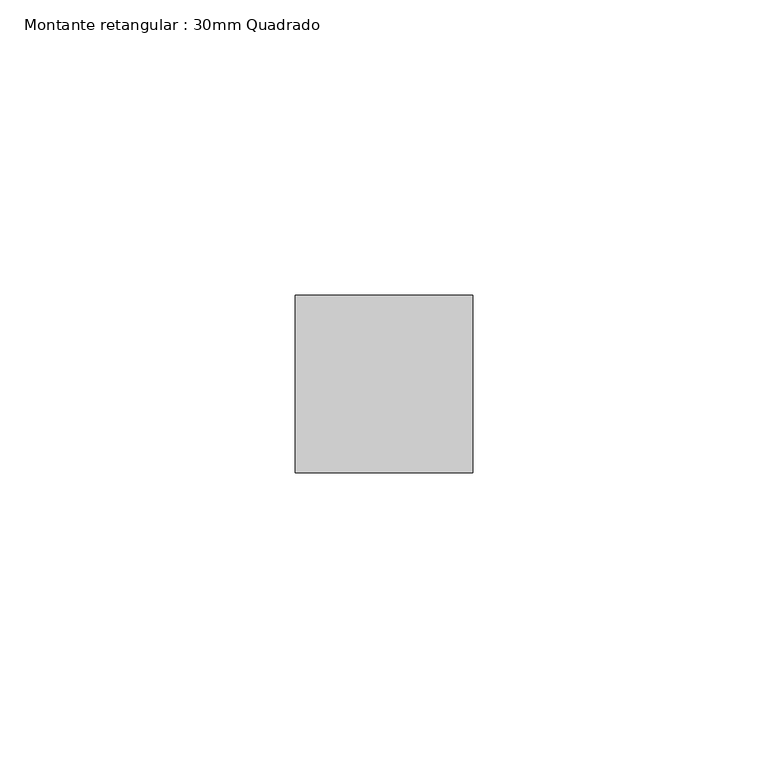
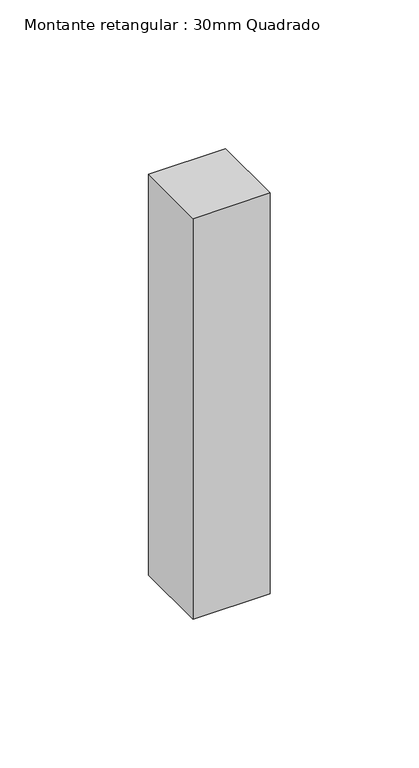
"""IFC4 building model written with IfcOpenShell, lengths in millimetres: member geometry, Montante retangular : 30mm Quadrado."""

from ifc_helpers import new_model, si_unit, frame, origin, place, context, project, spatial, polyline, outline, extrude, source, transform, mapped, element, save


def montante_retangular_30mm_quadrado_4eb7c7a0(model_context):
    return source(origin(), model_context, "Body", "SweptSolid", [
        extrude(outline(polyline([(0.0, 15.0), (0.0, -15.0), (-30.0, -15.0), (-30.0, 15.0), (0.0, 15.0)])), frame((0.0, 0.0, -164.6299474), z_axis=(0.0, 0.0, 1.0), x_axis=(1.0, 0.0, 0.0)), (0.0, 0.0, 1.0), 164.6299474),
    ])


if __name__ == "__main__":
    model = new_model("IFC4")
    model_context = context("Model", 3, world=origin())
    ifc_project = project(units=[si_unit("LENGTHUNIT", "METRE", prefix="MILLI")], contexts=[model_context])
    site = spatial("IfcSite", under=ifc_project)
    building = spatial("IfcBuilding", under=site)
    placement = place(None, origin())
    montante_retangular_30mm_quadrado_shape = montante_retangular_30mm_quadrado_4eb7c7a0(model_context)
    element("IfcMember", 1, ObjectType="Montante retangular : 30mm Quadrado", at=placement, inside=building, context=model_context, shape_type="MappedRepresentation", body=[
        mapped(montante_retangular_30mm_quadrado_shape, transform((0.0, 0.0, 0.0), x_axis=(1.0, 0.0, 0.0), y_axis=(0.0, 1.0, 0.0), z_axis=(0.0, 0.0, 1.0))),
    ])
    save(model, "model.ifc")
